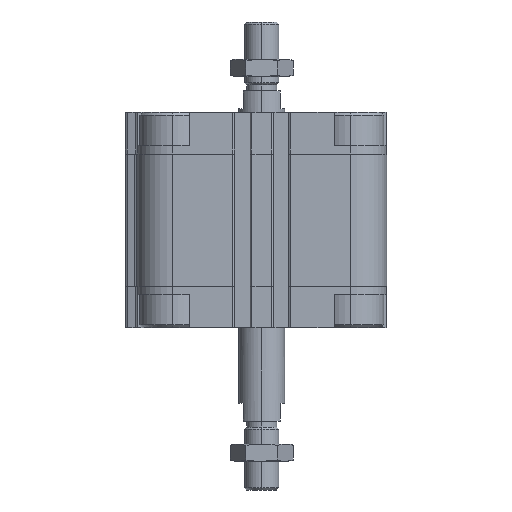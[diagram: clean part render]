
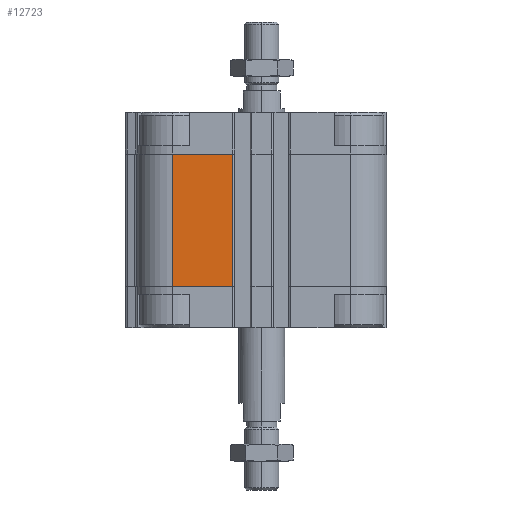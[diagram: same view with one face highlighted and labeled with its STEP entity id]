
A CAD part, left-side view. The second image highlights one B-rep face of the part: STEP entity #12723.
In plain terms, the highlighted planar face has unit normal (-1, 0, 0).
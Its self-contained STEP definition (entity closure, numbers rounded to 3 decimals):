
#325 = CARTESIAN_POINT ( 'NONE',  ( -43.5, 31., -60.5 ) ) ;
#1563 = DIRECTION ( 'NONE',  ( 0., -1., 0. ) ) ;
#1763 = LINE ( 'NONE', #14848, #6098 ) ;
#3394 = EDGE_CURVE ( 'NONE', #20527, #16438, #19293, .T. ) ;
#3453 = DIRECTION ( 'NONE',  ( 0., 0., 1. ) ) ;
#3462 = DIRECTION ( 'NONE',  ( 0., -1., 0. ) ) ;
#4613 = ORIENTED_EDGE ( 'NONE', *, *, #3394, .T. ) ;
#5047 = LINE ( 'NONE', #18183, #17455 ) ;
#5370 = EDGE_CURVE ( 'NONE', #20527, #10812, #18810, .T. ) ;
#6098 = VECTOR ( 'NONE', #3462, 1000. ) ;
#6274 = ORIENTED_EDGE ( 'NONE', *, *, #17729, .F. ) ;
#7044 = DIRECTION ( 'NONE',  ( -1., 0., 0. ) ) ;
#7532 = ORIENTED_EDGE ( 'NONE', *, *, #5370, .F. ) ;
#8142 = CARTESIAN_POINT ( 'NONE',  ( -43.5, 31., -14.5 ) ) ;
#8910 = DIRECTION ( 'NONE',  ( 0., 0., 1. ) ) ;
#9277 = EDGE_CURVE ( 'NONE', #16438, #12435, #5047, .T. ) ;
#10292 = FACE_OUTER_BOUND ( 'NONE', #16518, .T. ) ;
#10484 = DIRECTION ( 'NONE',  ( 0., -1., 0. ) ) ;
#10812 = VERTEX_POINT ( 'NONE', #8142 ) ;
#11685 = ORIENTED_EDGE ( 'NONE', *, *, #9277, .T. ) ;
#12047 = VECTOR ( 'NONE', #1563, 1000. ) ;
#12435 = VERTEX_POINT ( 'NONE', #16110 ) ;
#12723 = ADVANCED_FACE ( 'NONE', ( #10292 ), #16845, .T. ) ;
#13617 = AXIS2_PLACEMENT_3D ( 'NONE', #325, #7044, #10484 ) ;
#14144 = VECTOR ( 'NONE', #8910, 1000. ) ;
#14848 = CARTESIAN_POINT ( 'NONE',  ( -43.5, 31., -14.5 ) ) ;
#16110 = CARTESIAN_POINT ( 'NONE',  ( -43.5, 10.05, -14.5 ) ) ;
#16438 = VERTEX_POINT ( 'NONE', #17754 ) ;
#16518 = EDGE_LOOP ( 'NONE', ( #6274, #7532, #4613, #11685 ) ) ;
#16845 = PLANE ( 'NONE',  #13617 ) ;
#17455 = VECTOR ( 'NONE', #3453, 1000. ) ;
#17673 = CARTESIAN_POINT ( 'NONE',  ( -43.5, 31., -60.5 ) ) ;
#17681 = CARTESIAN_POINT ( 'NONE',  ( -43.5, 31., -60.5 ) ) ;
#17729 = EDGE_CURVE ( 'NONE', #10812, #12435, #1763, .T. ) ;
#17754 = CARTESIAN_POINT ( 'NONE',  ( -43.5, 10.05, -60.5 ) ) ;
#18183 = CARTESIAN_POINT ( 'NONE',  ( -43.5, 10.05, -60.5 ) ) ;
#18810 = LINE ( 'NONE', #20322, #14144 ) ;
#19293 = LINE ( 'NONE', #17673, #12047 ) ;
#20322 = CARTESIAN_POINT ( 'NONE',  ( -43.5, 31., -60.5 ) ) ;
#20527 = VERTEX_POINT ( 'NONE', #17681 ) ;
